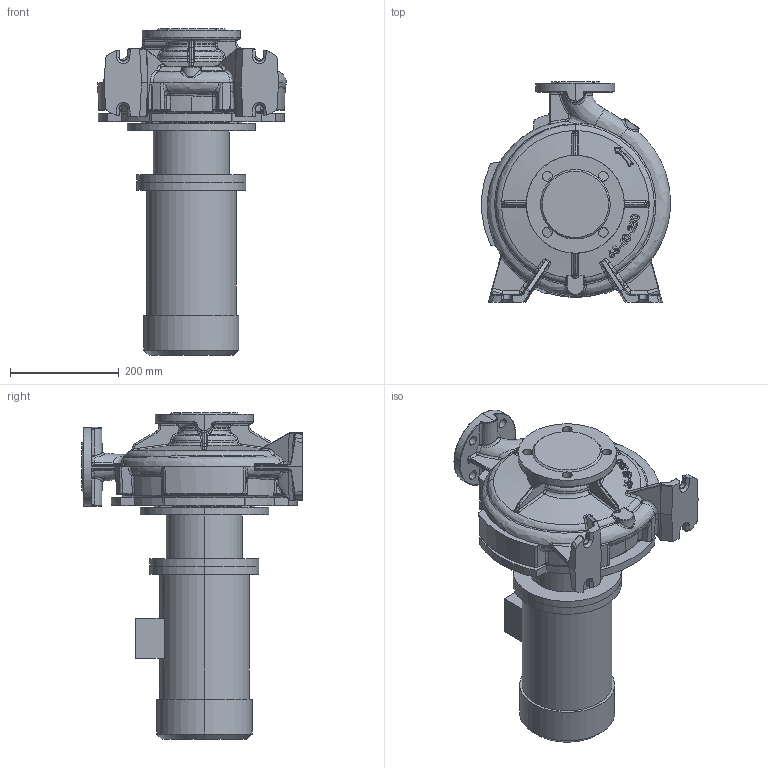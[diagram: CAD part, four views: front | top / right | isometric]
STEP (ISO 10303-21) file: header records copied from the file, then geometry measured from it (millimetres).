
FILE_DESCRIPTION (( 'STEP AP214' ), '1' );
FILE_NAME ('KRM 65-40-250-4-1,5.STEP', '2026-04-24T12:15:04', ( '' ), ( '' ), 'SwSTEP 2.0', 'SolidWorks 2016', '' );
FILE_SCHEMA (( 'AUTOMOTIVE_DESIGN' ));
Length unit declared in the file: millimetre
Products named in the file (1): KRM 65-40-250-4-1,5
Bounding box: 346.64 x 405.5 x 600.8 mm (x, y, z)
Volume: 20561369.2 mm3; surface area: 1103804.9 mm2
Topology: 4 solids, 4 shells, 1149 faces, 2787 edges, 1648 vertices
Faces by surface type: bspline 533, cylinder 210, plane 198, torus 96, cone 82, sphere 30
Entity records: 83882 total; most frequent: CARTESIAN_POINT 48755, ORIENTED_EDGE 5520, DIRECTION 3595, EDGE_CURVE 2760, VERTEX_POINT 1648, AXIS2_PLACEMENT_3D 1527, EDGE_LOOP 1194, UNCERTAINTY_MEASURE_WITH_UNIT 1155
